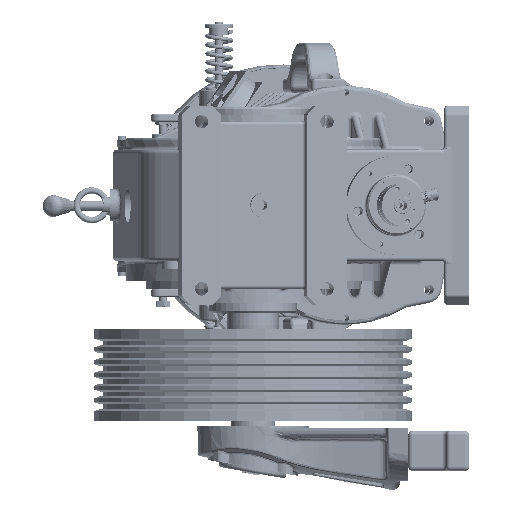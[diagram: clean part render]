
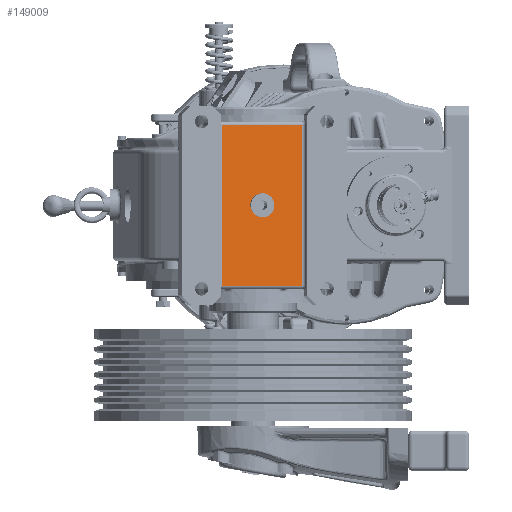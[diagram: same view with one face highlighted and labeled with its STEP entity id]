
A CAD part, front view. The second image highlights one B-rep face of the part: STEP entity #149009.
In plain terms, the highlighted planar face has unit normal (0.174, -0.985, 0).
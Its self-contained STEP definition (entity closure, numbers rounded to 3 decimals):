
#4789 = ORIENTED_EDGE ( 'NONE', *, *, #105178, .T. ) ;
#5159 = DIRECTION ( 'NONE',  ( -0.985, -0.174, 0. ) ) ;
#11803 = VERTEX_POINT ( 'NONE', #235919 ) ;
#15691 = DIRECTION ( 'NONE',  ( 0., 0., 1. ) ) ;
#21987 = EDGE_LOOP ( 'NONE', ( #126998, #146860 ) ) ;
#37228 = DIRECTION ( 'NONE',  ( 0.985, 0.174, 0. ) ) ;
#41642 = DIRECTION ( 'NONE',  ( 0.985, 0.174, 0. ) ) ;
#46764 = VERTEX_POINT ( 'NONE', #131499 ) ;
#53972 = CARTESIAN_POINT ( 'NONE',  ( -286.562, -348.184, -101. ) ) ;
#55200 = DIRECTION ( 'NONE',  ( 0.985, 0.174, 0. ) ) ;
#55562 = ORIENTED_EDGE ( 'NONE', *, *, #163529, .T. ) ;
#57175 = CARTESIAN_POINT ( 'NONE',  ( -306.258, -351.657, 0. ) ) ;
#57416 = LINE ( 'NONE', #134410, #235348 ) ;
#61200 = PLANE ( 'NONE',  #135346 ) ;
#63347 = CARTESIAN_POINT ( 'NONE',  ( -286.562, -348.184, 101. ) ) ;
#72907 = LINE ( 'NONE', #53972, #229501 ) ;
#78932 = FACE_BOUND ( 'NONE', #21987, .T. ) ;
#81075 = LINE ( 'NONE', #63347, #212122 ) ;
#87166 = VERTEX_POINT ( 'NONE', #220610 ) ;
#89760 = AXIS2_PLACEMENT_3D ( 'NONE', #231080, #94745, #41642 ) ;
#90154 = CARTESIAN_POINT ( 'NONE',  ( -356.484, -360.513, -101. ) ) ;
#94745 = DIRECTION ( 'NONE',  ( 0.174, -0.985, 0. ) ) ;
#95141 = EDGE_CURVE ( 'NONE', #97606, #11803, #81075, .T. ) ;
#97606 = VERTEX_POINT ( 'NONE', #192482 ) ;
#105178 = EDGE_CURVE ( 'NONE', #11803, #223923, #164886, .T. ) ;
#105460 = EDGE_LOOP ( 'NONE', ( #210175, #4789, #249672, #55562 ) ) ;
#110678 = EDGE_CURVE ( 'NONE', #87166, #173859, #221041, .T. ) ;
#116121 = AXIS2_PLACEMENT_3D ( 'NONE', #57175, #158150, #134165 ) ;
#126998 = ORIENTED_EDGE ( 'NONE', *, *, #212840, .F. ) ;
#131499 = CARTESIAN_POINT ( 'NONE',  ( -256.033, -342.801, -101. ) ) ;
#134165 = DIRECTION ( 'NONE',  ( 0.985, 0.174, 0. ) ) ;
#134410 = CARTESIAN_POINT ( 'NONE',  ( -256.033, -342.801, 101. ) ) ;
#135346 = AXIS2_PLACEMENT_3D ( 'NONE', #191291, #195067, #37228 ) ;
#146860 = ORIENTED_EDGE ( 'NONE', *, *, #110678, .F. ) ;
#149009 = ADVANCED_FACE ( 'NONE', ( #78932, #173635 ), #61200, .T. ) ;
#158150 = DIRECTION ( 'NONE',  ( 0.174, -0.985, 0. ) ) ;
#158471 = CIRCLE ( 'NONE', #89760, 15. ) ;
#163529 = EDGE_CURVE ( 'NONE', #46764, #97606, #57416, .T. ) ;
#164886 = LINE ( 'NONE', #241868, #211702 ) ;
#173635 = FACE_OUTER_BOUND ( 'NONE', #105460, .T. ) ;
#173859 = VERTEX_POINT ( 'NONE', #227447 ) ;
#191291 = CARTESIAN_POINT ( 'NONE',  ( -286.562, -348.184, -70. ) ) ;
#192482 = CARTESIAN_POINT ( 'NONE',  ( -256.033, -342.801, 101. ) ) ;
#195067 = DIRECTION ( 'NONE',  ( 0.174, -0.985, 0. ) ) ;
#202751 = DIRECTION ( 'NONE',  ( 0., 0., -1. ) ) ;
#210175 = ORIENTED_EDGE ( 'NONE', *, *, #95141, .T. ) ;
#211702 = VECTOR ( 'NONE', #202751, 1000. ) ;
#212122 = VECTOR ( 'NONE', #5159, 1000. ) ;
#212840 = EDGE_CURVE ( 'NONE', #173859, #87166, #158471, .T. ) ;
#220610 = CARTESIAN_POINT ( 'NONE',  ( -291.486, -349.052, 0. ) ) ;
#221041 = CIRCLE ( 'NONE', #116121, 15. ) ;
#223923 = VERTEX_POINT ( 'NONE', #90154 ) ;
#227447 = CARTESIAN_POINT ( 'NONE',  ( -321.031, -354.262, 0. ) ) ;
#229501 = VECTOR ( 'NONE', #55200, 1000. ) ;
#231080 = CARTESIAN_POINT ( 'NONE',  ( -306.258, -351.657, 0. ) ) ;
#235348 = VECTOR ( 'NONE', #15691, 1000. ) ;
#235919 = CARTESIAN_POINT ( 'NONE',  ( -356.484, -360.513, 101. ) ) ;
#238187 = EDGE_CURVE ( 'NONE', #223923, #46764, #72907, .T. ) ;
#241868 = CARTESIAN_POINT ( 'NONE',  ( -356.484, -360.513, -101. ) ) ;
#249672 = ORIENTED_EDGE ( 'NONE', *, *, #238187, .T. ) ;
